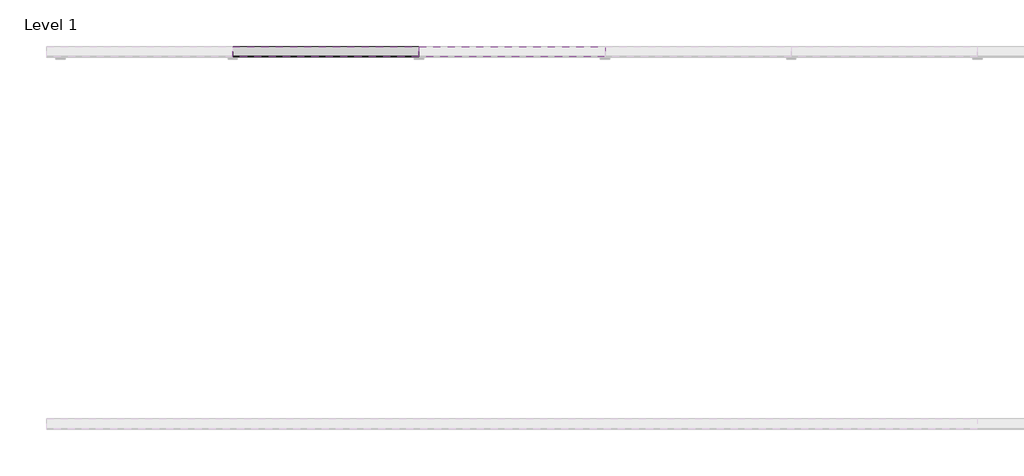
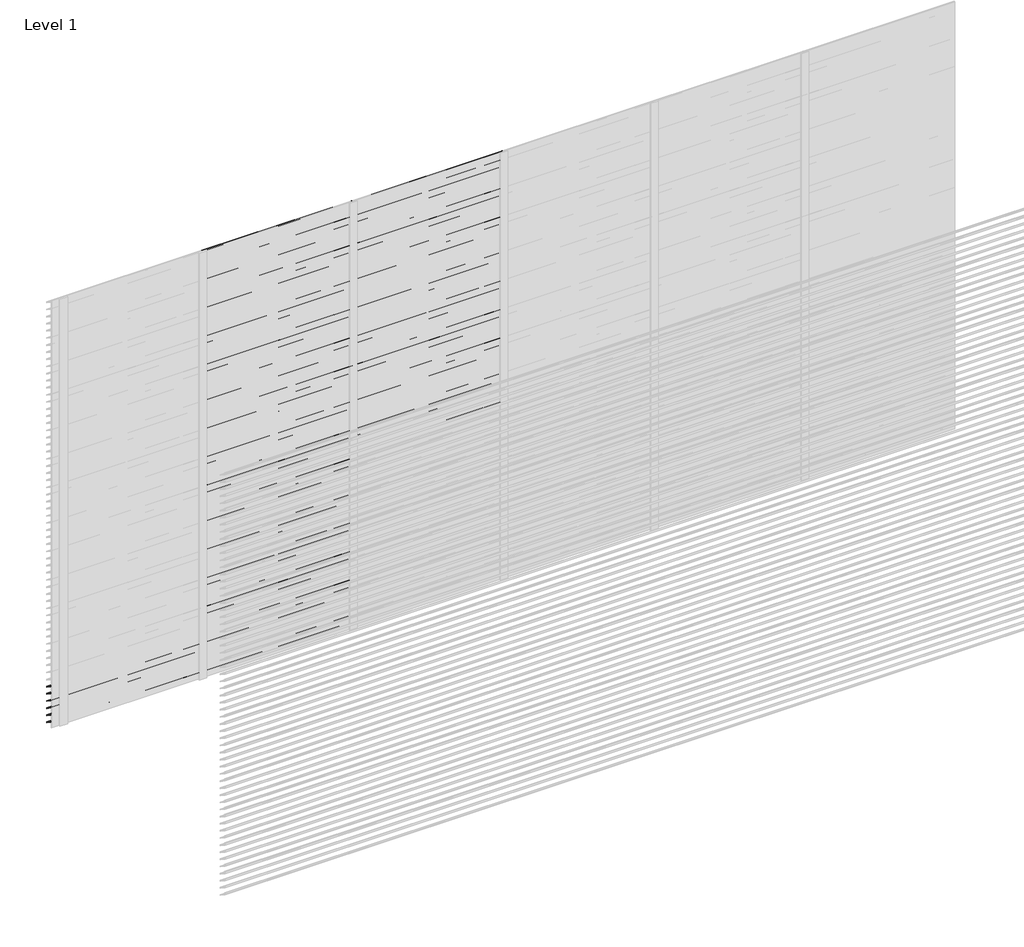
# One storey, part 16 of 18: 102 proxies.
"""IFC4 building model written with IfcOpenShell, lengths in millimetres."""

from ifc_helpers import new_model, si_unit, frame, origin, place, context, project, spatial, polyline, outline, extrude, element, save

model = new_model("IFC4")

# Units and contexts
model_context = context("Model", 3, world=origin())
ifc_project = project(units=[si_unit("LENGTHUNIT", "METRE", prefix="MILLI")], contexts=[model_context])

# Site, building, storey
site = spatial("IfcSite", under=ifc_project)
building = spatial("IfcBuilding", under=site)
storey = spatial("IfcBuildingStorey", under=building, Name="Level 1", Elevation=0.0)

# Proxies
placement = place(None, origin())
element("IfcBuildingElementProxy", 1, Name="Wall Sweeps", at=placement, inside=storey, context=model_context, shape_type="SweptSolid", body=[
    extrude(outline(polyline([(5.0, 300.0), (5.0, 291.0744429), (57.0, 256.0), (57.0, 250.0), (3.0, 286.4234599), (3.0, 300.0), (5.0, 300.0)])), frame((0.0, 0.0, 0.0), z_axis=(1.0, 0.0, 0.0), x_axis=(0.0, 1.0, 0.0)), (0.0, 0.0, 1.0), 1000.0),
])
element("IfcBuildingElementProxy", 2, Name="Wall Sweeps", at=placement, inside=storey, context=model_context, shape_type="SweptSolid", body=[
    extrude(outline(polyline([(5.0, 250.0), (5.0, 241.0744429), (57.0, 206.0), (57.0, 200.0), (3.0, 236.4234599), (3.0, 250.0), (5.0, 250.0)])), frame((0.0, 0.0, 0.0), z_axis=(1.0, 0.0, 0.0), x_axis=(0.0, 1.0, 0.0)), (0.0, 0.0, 1.0), 1000.0),
])
element("IfcBuildingElementProxy", 3, Name="Wall Sweeps", at=placement, inside=storey, context=model_context, shape_type="SweptSolid", body=[
    extrude(outline(polyline([(5.0, 200.0), (5.0, 191.0744429), (57.0, 156.0), (57.0, 150.0), (3.0, 186.4234599), (3.0, 200.0), (5.0, 200.0)])), frame((0.0, 0.0, 0.0), z_axis=(1.0, 0.0, 0.0), x_axis=(0.0, 1.0, 0.0)), (0.0, 0.0, 1.0), 1000.0),
])
element("IfcBuildingElementProxy", 4, Name="Wall Sweeps", at=placement, inside=storey, context=model_context, shape_type="SweptSolid", body=[
    extrude(outline(polyline([(5.0, 150.0), (5.0, 141.0744429), (57.0, 106.0), (57.0, 100.0), (3.0, 136.4234599), (3.0, 150.0), (5.0, 150.0)])), frame((0.0, 0.0, 0.0), z_axis=(1.0, 0.0, 0.0), x_axis=(0.0, 1.0, 0.0)), (0.0, 0.0, 1.0), 1000.0),
])
element("IfcBuildingElementProxy", 5, Name="Wall Sweeps", at=placement, inside=storey, context=model_context, shape_type="SweptSolid", body=[
    extrude(outline(polyline([(5.0, 100.0), (5.0, 91.0744429), (57.0, 56.0), (57.0, 50.0), (3.0, 86.4234599), (3.0, 100.0), (5.0, 100.0)])), frame((0.0, 0.0, 0.0), z_axis=(1.0, 0.0, 0.0), x_axis=(0.0, 1.0, 0.0)), (0.0, 0.0, 1.0), 1000.0),
])
element("IfcBuildingElementProxy", 6, Name="Wall Sweeps", at=placement, inside=storey, context=model_context, shape_type="SweptSolid", body=[
    extrude(outline(polyline([(5.0, 50.0), (5.0, 41.0744429), (57.0, 6.0), (57.0, 0.0), (3.0, 36.4234599), (3.0, 50.0), (5.0, 50.0)])), frame((0.0, 0.0, 0.0), z_axis=(1.0, 0.0, 0.0), x_axis=(0.0, 1.0, 0.0)), (0.0, 0.0, 1.0), 1000.0),
])
element("IfcBuildingElementProxy", 7, Name="Wall Sweeps", at=placement, inside=storey, context=model_context, shape_type="SweptSolid", body=[
    extrude(outline(polyline([(5.0, 3000.0), (5.0, 2991.0744429), (57.0, 2956.0), (57.0, 2950.0), (3.0, 2986.4234599), (3.0, 3000.0), (5.0, 3000.0)])), frame((1000.0, 0.0, 0.0), z_axis=(1.0, 0.0, 0.0), x_axis=(0.0, 1.0, 0.0)), (0.0, 0.0, 1.0), 1000.0),
])
element("IfcBuildingElementProxy", 8, Name="Wall Sweeps", at=placement, inside=storey, context=model_context, shape_type="SweptSolid", body=[
    extrude(outline(polyline([(5.0, 2950.0), (5.0, 2941.0744429), (57.0, 2906.0), (57.0, 2900.0), (3.0, 2936.4234599), (3.0, 2950.0), (5.0, 2950.0)])), frame((1000.0, 0.0, 0.0), z_axis=(1.0, 0.0, 0.0), x_axis=(0.0, 1.0, 0.0)), (0.0, 0.0, 1.0), 1000.0),
])
element("IfcBuildingElementProxy", 9, Name="Wall Sweeps", at=placement, inside=storey, context=model_context, shape_type="SweptSolid", body=[
    extrude(outline(polyline([(5.0, 2900.0), (5.0, 2891.0744429), (57.0, 2856.0), (57.0, 2850.0), (3.0, 2886.4234599), (3.0, 2900.0), (5.0, 2900.0)])), frame((1000.0, 0.0, 0.0), z_axis=(1.0, 0.0, 0.0), x_axis=(0.0, 1.0, 0.0)), (0.0, 0.0, 1.0), 1000.0),
])
element("IfcBuildingElementProxy", 10, Name="Wall Sweeps", at=placement, inside=storey, context=model_context, shape_type="SweptSolid", body=[
    extrude(outline(polyline([(5.0, 2850.0), (5.0, 2841.0744429), (57.0, 2806.0), (57.0, 2800.0), (3.0, 2836.4234599), (3.0, 2850.0), (5.0, 2850.0)])), frame((1000.0, 0.0, 0.0), z_axis=(1.0, 0.0, 0.0), x_axis=(0.0, 1.0, 0.0)), (0.0, 0.0, 1.0), 1000.0),
])
element("IfcBuildingElementProxy", 11, Name="Wall Sweeps", at=placement, inside=storey, context=model_context, shape_type="SweptSolid", body=[
    extrude(outline(polyline([(5.0, 2800.0), (5.0, 2791.0744429), (57.0, 2756.0), (57.0, 2750.0), (3.0, 2786.4234599), (3.0, 2800.0), (5.0, 2800.0)])), frame((1000.0, 0.0, 0.0), z_axis=(1.0, 0.0, 0.0), x_axis=(0.0, 1.0, 0.0)), (0.0, 0.0, 1.0), 1000.0),
])
element("IfcBuildingElementProxy", 12, Name="Wall Sweeps", at=placement, inside=storey, context=model_context, shape_type="SweptSolid", body=[
    extrude(outline(polyline([(5.0, 2750.0), (5.0, 2741.0744429), (57.0, 2706.0), (57.0, 2700.0), (3.0, 2736.4234599), (3.0, 2750.0), (5.0, 2750.0)])), frame((1000.0, 0.0, 0.0), z_axis=(1.0, 0.0, 0.0), x_axis=(0.0, 1.0, 0.0)), (0.0, 0.0, 1.0), 1000.0),
])
element("IfcBuildingElementProxy", 13, Name="Wall Sweeps", at=placement, inside=storey, context=model_context, shape_type="SweptSolid", body=[
    extrude(outline(polyline([(5.0, 2700.0), (5.0, 2691.0744429), (57.0, 2656.0), (57.0, 2650.0), (3.0, 2686.4234599), (3.0, 2700.0), (5.0, 2700.0)])), frame((1000.0, 0.0, 0.0), z_axis=(1.0, 0.0, 0.0), x_axis=(0.0, 1.0, 0.0)), (0.0, 0.0, 1.0), 1000.0),
])
element("IfcBuildingElementProxy", 14, Name="Wall Sweeps", at=placement, inside=storey, context=model_context, shape_type="SweptSolid", body=[
    extrude(outline(polyline([(5.0, 2650.0), (5.0, 2641.0744429), (57.0, 2606.0), (57.0, 2600.0), (3.0, 2636.4234599), (3.0, 2650.0), (5.0, 2650.0)])), frame((1000.0, 0.0, 0.0), z_axis=(1.0, 0.0, 0.0), x_axis=(0.0, 1.0, 0.0)), (0.0, 0.0, 1.0), 1000.0),
])
element("IfcBuildingElementProxy", 15, Name="Wall Sweeps", at=placement, inside=storey, context=model_context, shape_type="SweptSolid", body=[
    extrude(outline(polyline([(5.0, 2600.0), (5.0, 2591.0744429), (57.0, 2556.0), (57.0, 2550.0), (3.0, 2586.4234599), (3.0, 2600.0), (5.0, 2600.0)])), frame((1000.0, 0.0, 0.0), z_axis=(1.0, 0.0, 0.0), x_axis=(0.0, 1.0, 0.0)), (0.0, 0.0, 1.0), 1000.0),
])
element("IfcBuildingElementProxy", 16, Name="Wall Sweeps", at=placement, inside=storey, context=model_context, shape_type="SweptSolid", body=[
    extrude(outline(polyline([(5.0, 2550.0), (5.0, 2541.0744429), (57.0, 2506.0), (57.0, 2500.0), (3.0, 2536.4234599), (3.0, 2550.0), (5.0, 2550.0)])), frame((1000.0, 0.0, 0.0), z_axis=(1.0, 0.0, 0.0), x_axis=(0.0, 1.0, 0.0)), (0.0, 0.0, 1.0), 1000.0),
])
element("IfcBuildingElementProxy", 17, Name="Wall Sweeps", at=placement, inside=storey, context=model_context, shape_type="SweptSolid", body=[
    extrude(outline(polyline([(5.0, 2500.0), (5.0, 2491.0744429), (57.0, 2456.0), (57.0, 2450.0), (3.0, 2486.4234599), (3.0, 2500.0), (5.0, 2500.0)])), frame((1000.0, 0.0, 0.0), z_axis=(1.0, 0.0, 0.0), x_axis=(0.0, 1.0, 0.0)), (0.0, 0.0, 1.0), 1000.0),
])
element("IfcBuildingElementProxy", 18, Name="Wall Sweeps", at=placement, inside=storey, context=model_context, shape_type="SweptSolid", body=[
    extrude(outline(polyline([(5.0, 2450.0), (5.0, 2441.0744429), (57.0, 2406.0), (57.0, 2400.0), (3.0, 2436.4234599), (3.0, 2450.0), (5.0, 2450.0)])), frame((1000.0, 0.0, 0.0), z_axis=(1.0, 0.0, 0.0), x_axis=(0.0, 1.0, 0.0)), (0.0, 0.0, 1.0), 1000.0),
])
element("IfcBuildingElementProxy", 19, Name="Wall Sweeps", at=placement, inside=storey, context=model_context, shape_type="SweptSolid", body=[
    extrude(outline(polyline([(5.0, 2400.0), (5.0, 2391.0744429), (57.0, 2356.0), (57.0, 2350.0), (3.0, 2386.4234599), (3.0, 2400.0), (5.0, 2400.0)])), frame((1000.0, 0.0, 0.0), z_axis=(1.0, 0.0, 0.0), x_axis=(0.0, 1.0, 0.0)), (0.0, 0.0, 1.0), 1000.0),
])
element("IfcBuildingElementProxy", 20, Name="Wall Sweeps", at=placement, inside=storey, context=model_context, shape_type="SweptSolid", body=[
    extrude(outline(polyline([(5.0, 2350.0), (5.0, 2341.0744429), (57.0, 2306.0), (57.0, 2300.0), (3.0, 2336.4234599), (3.0, 2350.0), (5.0, 2350.0)])), frame((1000.0, 0.0, 0.0), z_axis=(1.0, 0.0, 0.0), x_axis=(0.0, 1.0, 0.0)), (0.0, 0.0, 1.0), 1000.0),
])
element("IfcBuildingElementProxy", 21, Name="Wall Sweeps", at=placement, inside=storey, context=model_context, shape_type="SweptSolid", body=[
    extrude(outline(polyline([(5.0, 2300.0), (5.0, 2291.0744429), (57.0, 2256.0), (57.0, 2250.0), (3.0, 2286.4234599), (3.0, 2300.0), (5.0, 2300.0)])), frame((1000.0, 0.0, 0.0), z_axis=(1.0, 0.0, 0.0), x_axis=(0.0, 1.0, 0.0)), (0.0, 0.0, 1.0), 1000.0),
])
element("IfcBuildingElementProxy", 22, Name="Wall Sweeps", at=placement, inside=storey, context=model_context, shape_type="SweptSolid", body=[
    extrude(outline(polyline([(5.0, 2250.0), (5.0, 2241.0744429), (57.0, 2206.0), (57.0, 2200.0), (3.0, 2236.4234599), (3.0, 2250.0), (5.0, 2250.0)])), frame((1000.0, 0.0, 0.0), z_axis=(1.0, 0.0, 0.0), x_axis=(0.0, 1.0, 0.0)), (0.0, 0.0, 1.0), 1000.0),
])
element("IfcBuildingElementProxy", 23, Name="Wall Sweeps", at=placement, inside=storey, context=model_context, shape_type="SweptSolid", body=[
    extrude(outline(polyline([(5.0, 2200.0), (5.0, 2191.0744429), (57.0, 2156.0), (57.0, 2150.0), (3.0, 2186.4234599), (3.0, 2200.0), (5.0, 2200.0)])), frame((1000.0, 0.0, 0.0), z_axis=(1.0, 0.0, 0.0), x_axis=(0.0, 1.0, 0.0)), (0.0, 0.0, 1.0), 1000.0),
])
element("IfcBuildingElementProxy", 24, Name="Wall Sweeps", at=placement, inside=storey, context=model_context, shape_type="SweptSolid", body=[
    extrude(outline(polyline([(5.0, 2150.0), (5.0, 2141.0744429), (57.0, 2106.0), (57.0, 2100.0), (3.0, 2136.4234599), (3.0, 2150.0), (5.0, 2150.0)])), frame((1000.0, 0.0, 0.0), z_axis=(1.0, 0.0, 0.0), x_axis=(0.0, 1.0, 0.0)), (0.0, 0.0, 1.0), 1000.0),
])
element("IfcBuildingElementProxy", 25, Name="Wall Sweeps", at=placement, inside=storey, context=model_context, shape_type="SweptSolid", body=[
    extrude(outline(polyline([(5.0, 2100.0), (5.0, 2091.0744429), (57.0, 2056.0), (57.0, 2050.0), (3.0, 2086.4234599), (3.0, 2100.0), (5.0, 2100.0)])), frame((1000.0, 0.0, 0.0), z_axis=(1.0, 0.0, 0.0), x_axis=(0.0, 1.0, 0.0)), (0.0, 0.0, 1.0), 1000.0),
])
element("IfcBuildingElementProxy", 26, Name="Wall Sweeps", at=placement, inside=storey, context=model_context, shape_type="SweptSolid", body=[
    extrude(outline(polyline([(5.0, 2050.0), (5.0, 2041.0744429), (57.0, 2006.0), (57.0, 2000.0), (3.0, 2036.4234599), (3.0, 2050.0), (5.0, 2050.0)])), frame((1000.0, 0.0, 0.0), z_axis=(1.0, 0.0, 0.0), x_axis=(0.0, 1.0, 0.0)), (0.0, 0.0, 1.0), 1000.0),
])
element("IfcBuildingElementProxy", 27, Name="Wall Sweeps", at=placement, inside=storey, context=model_context, shape_type="SweptSolid", body=[
    extrude(outline(polyline([(5.0, 2000.0), (5.0, 1991.0744429), (57.0, 1956.0), (57.0, 1950.0), (3.0, 1986.4234599), (3.0, 2000.0), (5.0, 2000.0)])), frame((1000.0, 0.0, 0.0), z_axis=(1.0, 0.0, 0.0), x_axis=(0.0, 1.0, 0.0)), (0.0, 0.0, 1.0), 1000.0),
])
element("IfcBuildingElementProxy", 28, Name="Wall Sweeps", at=placement, inside=storey, context=model_context, shape_type="SweptSolid", body=[
    extrude(outline(polyline([(5.0, 1950.0), (5.0, 1941.0744429), (57.0, 1906.0), (57.0, 1900.0), (3.0, 1936.4234599), (3.0, 1950.0), (5.0, 1950.0)])), frame((1000.0, 0.0, 0.0), z_axis=(1.0, 0.0, 0.0), x_axis=(0.0, 1.0, 0.0)), (0.0, 0.0, 1.0), 1000.0),
])
element("IfcBuildingElementProxy", 29, Name="Wall Sweeps", at=placement, inside=storey, context=model_context, shape_type="SweptSolid", body=[
    extrude(outline(polyline([(5.0, 1900.0), (5.0, 1891.0744429), (57.0, 1856.0), (57.0, 1850.0), (3.0, 1886.4234599), (3.0, 1900.0), (5.0, 1900.0)])), frame((1000.0, 0.0, 0.0), z_axis=(1.0, 0.0, 0.0), x_axis=(0.0, 1.0, 0.0)), (0.0, 0.0, 1.0), 1000.0),
])
element("IfcBuildingElementProxy", 30, Name="Wall Sweeps", at=placement, inside=storey, context=model_context, shape_type="SweptSolid", body=[
    extrude(outline(polyline([(5.0, 1850.0), (5.0, 1841.0744429), (57.0, 1806.0), (57.0, 1800.0), (3.0, 1836.4234599), (3.0, 1850.0), (5.0, 1850.0)])), frame((1000.0, 0.0, 0.0), z_axis=(1.0, 0.0, 0.0), x_axis=(0.0, 1.0, 0.0)), (0.0, 0.0, 1.0), 1000.0),
])
element("IfcBuildingElementProxy", 31, Name="Wall Sweeps", at=placement, inside=storey, context=model_context, shape_type="SweptSolid", body=[
    extrude(outline(polyline([(5.0, 1800.0), (5.0, 1791.0744429), (57.0, 1756.0), (57.0, 1750.0), (3.0, 1786.4234599), (3.0, 1800.0), (5.0, 1800.0)])), frame((1000.0, 0.0, 0.0), z_axis=(1.0, 0.0, 0.0), x_axis=(0.0, 1.0, 0.0)), (0.0, 0.0, 1.0), 1000.0),
])
element("IfcBuildingElementProxy", 32, Name="Wall Sweeps", at=placement, inside=storey, context=model_context, shape_type="SweptSolid", body=[
    extrude(outline(polyline([(5.0, 1750.0), (5.0, 1741.0744429), (57.0, 1706.0), (57.0, 1700.0), (3.0, 1736.4234599), (3.0, 1750.0), (5.0, 1750.0)])), frame((1000.0, 0.0, 0.0), z_axis=(1.0, 0.0, 0.0), x_axis=(0.0, 1.0, 0.0)), (0.0, 0.0, 1.0), 1000.0),
])
element("IfcBuildingElementProxy", 33, Name="Wall Sweeps", at=placement, inside=storey, context=model_context, shape_type="SweptSolid", body=[
    extrude(outline(polyline([(5.0, 1700.0), (5.0, 1691.0744429), (57.0, 1656.0), (57.0, 1650.0), (3.0, 1686.4234599), (3.0, 1700.0), (5.0, 1700.0)])), frame((1000.0, 0.0, 0.0), z_axis=(1.0, 0.0, 0.0), x_axis=(0.0, 1.0, 0.0)), (0.0, 0.0, 1.0), 1000.0),
])
element("IfcBuildingElementProxy", 34, Name="Wall Sweeps", at=placement, inside=storey, context=model_context, shape_type="SweptSolid", body=[
    extrude(outline(polyline([(5.0, 1650.0), (5.0, 1641.0744429), (57.0, 1606.0), (57.0, 1600.0), (3.0, 1636.4234599), (3.0, 1650.0), (5.0, 1650.0)])), frame((1000.0, 0.0, 0.0), z_axis=(1.0, 0.0, 0.0), x_axis=(0.0, 1.0, 0.0)), (0.0, 0.0, 1.0), 1000.0),
])
element("IfcBuildingElementProxy", 35, Name="Wall Sweeps", at=placement, inside=storey, context=model_context, shape_type="SweptSolid", body=[
    extrude(outline(polyline([(5.0, 1600.0), (5.0, 1591.0744429), (57.0, 1556.0), (57.0, 1550.0), (3.0, 1586.4234599), (3.0, 1600.0), (5.0, 1600.0)])), frame((1000.0, 0.0, 0.0), z_axis=(1.0, 0.0, 0.0), x_axis=(0.0, 1.0, 0.0)), (0.0, 0.0, 1.0), 1000.0),
])
element("IfcBuildingElementProxy", 36, Name="Wall Sweeps", at=placement, inside=storey, context=model_context, shape_type="SweptSolid", body=[
    extrude(outline(polyline([(5.0, 1550.0), (5.0, 1541.0744429), (57.0, 1506.0), (57.0, 1500.0), (3.0, 1536.4234599), (3.0, 1550.0), (5.0, 1550.0)])), frame((1000.0, 0.0, 0.0), z_axis=(1.0, 0.0, 0.0), x_axis=(0.0, 1.0, 0.0)), (0.0, 0.0, 1.0), 1000.0),
])
element("IfcBuildingElementProxy", 37, Name="Wall Sweeps", at=placement, inside=storey, context=model_context, shape_type="SweptSolid", body=[
    extrude(outline(polyline([(5.0, 1500.0), (5.0, 1491.0744429), (57.0, 1456.0), (57.0, 1450.0), (3.0, 1486.4234599), (3.0, 1500.0), (5.0, 1500.0)])), frame((1000.0, 0.0, 0.0), z_axis=(1.0, 0.0, 0.0), x_axis=(0.0, 1.0, 0.0)), (0.0, 0.0, 1.0), 1000.0),
])
element("IfcBuildingElementProxy", 38, Name="Wall Sweeps", at=placement, inside=storey, context=model_context, shape_type="SweptSolid", body=[
    extrude(outline(polyline([(5.0, 1450.0), (5.0, 1441.0744429), (57.0, 1406.0), (57.0, 1400.0), (3.0, 1436.4234599), (3.0, 1450.0), (5.0, 1450.0)])), frame((1000.0, 0.0, 0.0), z_axis=(1.0, 0.0, 0.0), x_axis=(0.0, 1.0, 0.0)), (0.0, 0.0, 1.0), 1000.0),
])
element("IfcBuildingElementProxy", 39, Name="Wall Sweeps", at=placement, inside=storey, context=model_context, shape_type="SweptSolid", body=[
    extrude(outline(polyline([(5.0, 1400.0), (5.0, 1391.0744429), (57.0, 1356.0), (57.0, 1350.0), (3.0, 1386.4234599), (3.0, 1400.0), (5.0, 1400.0)])), frame((1000.0, 0.0, 0.0), z_axis=(1.0, 0.0, 0.0), x_axis=(0.0, 1.0, 0.0)), (0.0, 0.0, 1.0), 1000.0),
])
element("IfcBuildingElementProxy", 40, Name="Wall Sweeps", at=placement, inside=storey, context=model_context, shape_type="SweptSolid", body=[
    extrude(outline(polyline([(5.0, 1350.0), (5.0, 1341.0744429), (57.0, 1306.0), (57.0, 1300.0), (3.0, 1336.4234599), (3.0, 1350.0), (5.0, 1350.0)])), frame((1000.0, 0.0, 0.0), z_axis=(1.0, 0.0, 0.0), x_axis=(0.0, 1.0, 0.0)), (0.0, 0.0, 1.0), 1000.0),
])
element("IfcBuildingElementProxy", 41, Name="Wall Sweeps", at=placement, inside=storey, context=model_context, shape_type="SweptSolid", body=[
    extrude(outline(polyline([(5.0, 1300.0), (5.0, 1291.0744429), (57.0, 1256.0), (57.0, 1250.0), (3.0, 1286.4234599), (3.0, 1300.0), (5.0, 1300.0)])), frame((1000.0, 0.0, 0.0), z_axis=(1.0, 0.0, 0.0), x_axis=(0.0, 1.0, 0.0)), (0.0, 0.0, 1.0), 1000.0),
])
element("IfcBuildingElementProxy", 42, Name="Wall Sweeps", at=placement, inside=storey, context=model_context, shape_type="SweptSolid", body=[
    extrude(outline(polyline([(5.0, 1250.0), (5.0, 1241.0744429), (57.0, 1206.0), (57.0, 1200.0), (3.0, 1236.4234599), (3.0, 1250.0), (5.0, 1250.0)])), frame((1000.0, 0.0, 0.0), z_axis=(1.0, 0.0, 0.0), x_axis=(0.0, 1.0, 0.0)), (0.0, 0.0, 1.0), 1000.0),
])
element("IfcBuildingElementProxy", 43, Name="Wall Sweeps", at=placement, inside=storey, context=model_context, shape_type="SweptSolid", body=[
    extrude(outline(polyline([(5.0, 1200.0), (5.0, 1191.0744429), (57.0, 1156.0), (57.0, 1150.0), (3.0, 1186.4234599), (3.0, 1200.0), (5.0, 1200.0)])), frame((1000.0, 0.0, 0.0), z_axis=(1.0, 0.0, 0.0), x_axis=(0.0, 1.0, 0.0)), (0.0, 0.0, 1.0), 1000.0),
])
element("IfcBuildingElementProxy", 44, Name="Wall Sweeps", at=placement, inside=storey, context=model_context, shape_type="SweptSolid", body=[
    extrude(outline(polyline([(5.0, 1150.0), (5.0, 1141.0744429), (57.0, 1106.0), (57.0, 1100.0), (3.0, 1136.4234599), (3.0, 1150.0), (5.0, 1150.0)])), frame((1000.0, 0.0, 0.0), z_axis=(1.0, 0.0, 0.0), x_axis=(0.0, 1.0, 0.0)), (0.0, 0.0, 1.0), 1000.0),
])
element("IfcBuildingElementProxy", 45, Name="Wall Sweeps", at=placement, inside=storey, context=model_context, shape_type="SweptSolid", body=[
    extrude(outline(polyline([(5.0, 1100.0), (5.0, 1091.0744429), (57.0, 1056.0), (57.0, 1050.0), (3.0, 1086.4234599), (3.0, 1100.0), (5.0, 1100.0)])), frame((1000.0, 0.0, 0.0), z_axis=(1.0, 0.0, 0.0), x_axis=(0.0, 1.0, 0.0)), (0.0, 0.0, 1.0), 1000.0),
])
element("IfcBuildingElementProxy", 46, Name="Wall Sweeps", at=placement, inside=storey, context=model_context, shape_type="SweptSolid", body=[
    extrude(outline(polyline([(5.0, 1050.0), (5.0, 1041.0744429), (57.0, 1006.0), (57.0, 1000.0), (3.0, 1036.4234599), (3.0, 1050.0), (5.0, 1050.0)])), frame((1000.0, 0.0, 0.0), z_axis=(1.0, 0.0, 0.0), x_axis=(0.0, 1.0, 0.0)), (0.0, 0.0, 1.0), 1000.0),
])
element("IfcBuildingElementProxy", 47, Name="Wall Sweeps", at=placement, inside=storey, context=model_context, shape_type="SweptSolid", body=[
    extrude(outline(polyline([(5.0, 1000.0), (5.0, 991.0744429), (57.0, 956.0), (57.0, 950.0), (3.0, 986.4234599), (3.0, 1000.0), (5.0, 1000.0)])), frame((1000.0, 0.0, 0.0), z_axis=(1.0, 0.0, 0.0), x_axis=(0.0, 1.0, 0.0)), (0.0, 0.0, 1.0), 1000.0),
])
element("IfcBuildingElementProxy", 48, Name="Wall Sweeps", at=placement, inside=storey, context=model_context, shape_type="SweptSolid", body=[
    extrude(outline(polyline([(5.0, 950.0), (5.0, 941.0744429), (57.0, 906.0), (57.0, 900.0), (3.0, 936.4234599), (3.0, 950.0), (5.0, 950.0)])), frame((1000.0, 0.0, 0.0), z_axis=(1.0, 0.0, 0.0), x_axis=(0.0, 1.0, 0.0)), (0.0, 0.0, 1.0), 1000.0),
])
element("IfcBuildingElementProxy", 49, Name="Wall Sweeps", at=placement, inside=storey, context=model_context, shape_type="SweptSolid", body=[
    extrude(outline(polyline([(5.0, 900.0), (5.0, 891.0744429), (57.0, 856.0), (57.0, 850.0), (3.0, 886.4234599), (3.0, 900.0), (5.0, 900.0)])), frame((1000.0, 0.0, 0.0), z_axis=(1.0, 0.0, 0.0), x_axis=(0.0, 1.0, 0.0)), (0.0, 0.0, 1.0), 1000.0),
])
element("IfcBuildingElementProxy", 50, Name="Wall Sweeps", at=placement, inside=storey, context=model_context, shape_type="SweptSolid", body=[
    extrude(outline(polyline([(5.0, 850.0), (5.0, 841.0744429), (57.0, 806.0), (57.0, 800.0), (3.0, 836.4234599), (3.0, 850.0), (5.0, 850.0)])), frame((1000.0, 0.0, 0.0), z_axis=(1.0, 0.0, 0.0), x_axis=(0.0, 1.0, 0.0)), (0.0, 0.0, 1.0), 1000.0),
])
element("IfcBuildingElementProxy", 51, Name="Wall Sweeps", at=placement, inside=storey, context=model_context, shape_type="SweptSolid", body=[
    extrude(outline(polyline([(5.0, 800.0), (5.0, 791.0744429), (57.0, 756.0), (57.0, 750.0), (3.0, 786.4234599), (3.0, 800.0), (5.0, 800.0)])), frame((1000.0, 0.0, 0.0), z_axis=(1.0, 0.0, 0.0), x_axis=(0.0, 1.0, 0.0)), (0.0, 0.0, 1.0), 1000.0),
])
element("IfcBuildingElementProxy", 52, Name="Wall Sweeps", at=placement, inside=storey, context=model_context, shape_type="SweptSolid", body=[
    extrude(outline(polyline([(5.0, 750.0), (5.0, 741.0744429), (57.0, 706.0), (57.0, 700.0), (3.0, 736.4234599), (3.0, 750.0), (5.0, 750.0)])), frame((1000.0, 0.0, 0.0), z_axis=(1.0, 0.0, 0.0), x_axis=(0.0, 1.0, 0.0)), (0.0, 0.0, 1.0), 1000.0),
])
element("IfcBuildingElementProxy", 53, Name="Wall Sweeps", at=placement, inside=storey, context=model_context, shape_type="SweptSolid", body=[
    extrude(outline(polyline([(5.0, 700.0), (5.0, 691.0744429), (57.0, 656.0), (57.0, 650.0), (3.0, 686.4234599), (3.0, 700.0), (5.0, 700.0)])), frame((1000.0, 0.0, 0.0), z_axis=(1.0, 0.0, 0.0), x_axis=(0.0, 1.0, 0.0)), (0.0, 0.0, 1.0), 1000.0),
])
element("IfcBuildingElementProxy", 54, Name="Wall Sweeps", at=placement, inside=storey, context=model_context, shape_type="SweptSolid", body=[
    extrude(outline(polyline([(5.0, 650.0), (5.0, 641.0744429), (57.0, 606.0), (57.0, 600.0), (3.0, 636.4234599), (3.0, 650.0), (5.0, 650.0)])), frame((1000.0, 0.0, 0.0), z_axis=(1.0, 0.0, 0.0), x_axis=(0.0, 1.0, 0.0)), (0.0, 0.0, 1.0), 1000.0),
])
element("IfcBuildingElementProxy", 55, Name="Wall Sweeps", at=placement, inside=storey, context=model_context, shape_type="SweptSolid", body=[
    extrude(outline(polyline([(5.0, 600.0), (5.0, 591.0744429), (57.0, 556.0), (57.0, 550.0), (3.0, 586.4234599), (3.0, 600.0), (5.0, 600.0)])), frame((1000.0, 0.0, 0.0), z_axis=(1.0, 0.0, 0.0), x_axis=(0.0, 1.0, 0.0)), (0.0, 0.0, 1.0), 1000.0),
])
element("IfcBuildingElementProxy", 56, Name="Wall Sweeps", at=placement, inside=storey, context=model_context, shape_type="SweptSolid", body=[
    extrude(outline(polyline([(5.0, 550.0), (5.0, 541.0744429), (57.0, 506.0), (57.0, 500.0), (3.0, 536.4234599), (3.0, 550.0), (5.0, 550.0)])), frame((1000.0, 0.0, 0.0), z_axis=(1.0, 0.0, 0.0), x_axis=(0.0, 1.0, 0.0)), (0.0, 0.0, 1.0), 1000.0),
])
element("IfcBuildingElementProxy", 57, Name="Wall Sweeps", at=placement, inside=storey, context=model_context, shape_type="SweptSolid", body=[
    extrude(outline(polyline([(5.0, 500.0), (5.0, 491.0744429), (57.0, 456.0), (57.0, 450.0), (3.0, 486.4234599), (3.0, 500.0), (5.0, 500.0)])), frame((1000.0, 0.0, 0.0), z_axis=(1.0, 0.0, 0.0), x_axis=(0.0, 1.0, 0.0)), (0.0, 0.0, 1.0), 1000.0),
])
element("IfcBuildingElementProxy", 58, Name="Wall Sweeps", at=placement, inside=storey, context=model_context, shape_type="SweptSolid", body=[
    extrude(outline(polyline([(5.0, 450.0), (5.0, 441.0744429), (57.0, 406.0), (57.0, 400.0), (3.0, 436.4234599), (3.0, 450.0), (5.0, 450.0)])), frame((1000.0, 0.0, 0.0), z_axis=(1.0, 0.0, 0.0), x_axis=(0.0, 1.0, 0.0)), (0.0, 0.0, 1.0), 1000.0),
])
element("IfcBuildingElementProxy", 59, Name="Wall Sweeps", at=placement, inside=storey, context=model_context, shape_type="SweptSolid", body=[
    extrude(outline(polyline([(5.0, 400.0), (5.0, 391.0744429), (57.0, 356.0), (57.0, 350.0), (3.0, 386.4234599), (3.0, 400.0), (5.0, 400.0)])), frame((1000.0, 0.0, 0.0), z_axis=(1.0, 0.0, 0.0), x_axis=(0.0, 1.0, 0.0)), (0.0, 0.0, 1.0), 1000.0),
])
element("IfcBuildingElementProxy", 60, Name="Wall Sweeps", at=placement, inside=storey, context=model_context, shape_type="SweptSolid", body=[
    extrude(outline(polyline([(5.0, 350.0), (5.0, 341.0744429), (57.0, 306.0), (57.0, 300.0), (3.0, 336.4234599), (3.0, 350.0), (5.0, 350.0)])), frame((1000.0, 0.0, 0.0), z_axis=(1.0, 0.0, 0.0), x_axis=(0.0, 1.0, 0.0)), (0.0, 0.0, 1.0), 1000.0),
])
element("IfcBuildingElementProxy", 61, Name="Wall Sweeps", at=placement, inside=storey, context=model_context, shape_type="SweptSolid", body=[
    extrude(outline(polyline([(5.0, 300.0), (5.0, 291.0744429), (57.0, 256.0), (57.0, 250.0), (3.0, 286.4234599), (3.0, 300.0), (5.0, 300.0)])), frame((1000.0, 0.0, 0.0), z_axis=(1.0, 0.0, 0.0), x_axis=(0.0, 1.0, 0.0)), (0.0, 0.0, 1.0), 1000.0),
])
element("IfcBuildingElementProxy", 62, Name="Wall Sweeps", at=placement, inside=storey, context=model_context, shape_type="SweptSolid", body=[
    extrude(outline(polyline([(5.0, 250.0), (5.0, 241.0744429), (57.0, 206.0), (57.0, 200.0), (3.0, 236.4234599), (3.0, 250.0), (5.0, 250.0)])), frame((1000.0, 0.0, 0.0), z_axis=(1.0, 0.0, 0.0), x_axis=(0.0, 1.0, 0.0)), (0.0, 0.0, 1.0), 1000.0),
])
element("IfcBuildingElementProxy", 63, Name="Wall Sweeps", at=placement, inside=storey, context=model_context, shape_type="SweptSolid", body=[
    extrude(outline(polyline([(5.0, 200.0), (5.0, 191.0744429), (57.0, 156.0), (57.0, 150.0), (3.0, 186.4234599), (3.0, 200.0), (5.0, 200.0)])), frame((1000.0, 0.0, 0.0), z_axis=(1.0, 0.0, 0.0), x_axis=(0.0, 1.0, 0.0)), (0.0, 0.0, 1.0), 1000.0),
])
element("IfcBuildingElementProxy", 64, Name="Wall Sweeps", at=placement, inside=storey, context=model_context, shape_type="SweptSolid", body=[
    extrude(outline(polyline([(5.0, 150.0), (5.0, 141.0744429), (57.0, 106.0), (57.0, 100.0), (3.0, 136.4234599), (3.0, 150.0), (5.0, 150.0)])), frame((1000.0, 0.0, 0.0), z_axis=(1.0, 0.0, 0.0), x_axis=(0.0, 1.0, 0.0)), (0.0, 0.0, 1.0), 1000.0),
])
element("IfcBuildingElementProxy", 65, Name="Wall Sweeps", at=placement, inside=storey, context=model_context, shape_type="SweptSolid", body=[
    extrude(outline(polyline([(5.0, 100.0), (5.0, 91.0744429), (57.0, 56.0), (57.0, 50.0), (3.0, 86.4234599), (3.0, 100.0), (5.0, 100.0)])), frame((1000.0, 0.0, 0.0), z_axis=(1.0, 0.0, 0.0), x_axis=(0.0, 1.0, 0.0)), (0.0, 0.0, 1.0), 1000.0),
])
element("IfcBuildingElementProxy", 66, Name="Wall Sweeps", at=placement, inside=storey, context=model_context, shape_type="SweptSolid", body=[
    extrude(outline(polyline([(5.0, 50.0), (5.0, 41.0744429), (57.0, 6.0), (57.0, 0.0), (3.0, 36.4234599), (3.0, 50.0), (5.0, 50.0)])), frame((1000.0, 0.0, 0.0), z_axis=(1.0, 0.0, 0.0), x_axis=(0.0, 1.0, 0.0)), (0.0, 0.0, 1.0), 1000.0),
])
element("IfcBuildingElementProxy", 67, Name="Wall Sweeps", at=placement, inside=storey, context=model_context, shape_type="SweptSolid", body=[
    extrude(outline(polyline([(5.0, 3000.0), (5.0, 2991.0744429), (57.0, 2956.0), (57.0, 2950.0), (3.0, 2986.4234599), (3.0, 3000.0), (5.0, 3000.0)])), frame((2000.0, 0.0, 0.0), z_axis=(1.0, 0.0, 0.0), x_axis=(0.0, 1.0, 0.0)), (0.0, 0.0, 1.0), 1000.0),
])
element("IfcBuildingElementProxy", 68, Name="Wall Sweeps", at=placement, inside=storey, context=model_context, shape_type="SweptSolid", body=[
    extrude(outline(polyline([(5.0, 2950.0), (5.0, 2941.0744429), (57.0, 2906.0), (57.0, 2900.0), (3.0, 2936.4234599), (3.0, 2950.0), (5.0, 2950.0)])), frame((2000.0, 0.0, 0.0), z_axis=(1.0, 0.0, 0.0), x_axis=(0.0, 1.0, 0.0)), (0.0, 0.0, 1.0), 1000.0),
])
element("IfcBuildingElementProxy", 69, Name="Wall Sweeps", at=placement, inside=storey, context=model_context, shape_type="SweptSolid", body=[
    extrude(outline(polyline([(5.0, 2900.0), (5.0, 2891.0744429), (57.0, 2856.0), (57.0, 2850.0), (3.0, 2886.4234599), (3.0, 2900.0), (5.0, 2900.0)])), frame((2000.0, 0.0, 0.0), z_axis=(1.0, 0.0, 0.0), x_axis=(0.0, 1.0, 0.0)), (0.0, 0.0, 1.0), 1000.0),
])
element("IfcBuildingElementProxy", 70, Name="Wall Sweeps", at=placement, inside=storey, context=model_context, shape_type="SweptSolid", body=[
    extrude(outline(polyline([(5.0, 2850.0), (5.0, 2841.0744429), (57.0, 2806.0), (57.0, 2800.0), (3.0, 2836.4234599), (3.0, 2850.0), (5.0, 2850.0)])), frame((2000.0, 0.0, 0.0), z_axis=(1.0, 0.0, 0.0), x_axis=(0.0, 1.0, 0.0)), (0.0, 0.0, 1.0), 1000.0),
])
element("IfcBuildingElementProxy", 71, Name="Wall Sweeps", at=placement, inside=storey, context=model_context, shape_type="SweptSolid", body=[
    extrude(outline(polyline([(5.0, 2800.0), (5.0, 2791.0744429), (57.0, 2756.0), (57.0, 2750.0), (3.0, 2786.4234599), (3.0, 2800.0), (5.0, 2800.0)])), frame((2000.0, 0.0, 0.0), z_axis=(1.0, 0.0, 0.0), x_axis=(0.0, 1.0, 0.0)), (0.0, 0.0, 1.0), 1000.0),
])
element("IfcBuildingElementProxy", 72, Name="Wall Sweeps", at=placement, inside=storey, context=model_context, shape_type="SweptSolid", body=[
    extrude(outline(polyline([(5.0, 2750.0), (5.0, 2741.0744429), (57.0, 2706.0), (57.0, 2700.0), (3.0, 2736.4234599), (3.0, 2750.0), (5.0, 2750.0)])), frame((2000.0, 0.0, 0.0), z_axis=(1.0, 0.0, 0.0), x_axis=(0.0, 1.0, 0.0)), (0.0, 0.0, 1.0), 1000.0),
])
element("IfcBuildingElementProxy", 73, Name="Wall Sweeps", at=placement, inside=storey, context=model_context, shape_type="SweptSolid", body=[
    extrude(outline(polyline([(5.0, 2700.0), (5.0, 2691.0744429), (57.0, 2656.0), (57.0, 2650.0), (3.0, 2686.4234599), (3.0, 2700.0), (5.0, 2700.0)])), frame((2000.0, 0.0, 0.0), z_axis=(1.0, 0.0, 0.0), x_axis=(0.0, 1.0, 0.0)), (0.0, 0.0, 1.0), 1000.0),
])
element("IfcBuildingElementProxy", 74, Name="Wall Sweeps", at=placement, inside=storey, context=model_context, shape_type="SweptSolid", body=[
    extrude(outline(polyline([(5.0, 2650.0), (5.0, 2641.0744429), (57.0, 2606.0), (57.0, 2600.0), (3.0, 2636.4234599), (3.0, 2650.0), (5.0, 2650.0)])), frame((2000.0, 0.0, 0.0), z_axis=(1.0, 0.0, 0.0), x_axis=(0.0, 1.0, 0.0)), (0.0, 0.0, 1.0), 1000.0),
])
element("IfcBuildingElementProxy", 75, Name="Wall Sweeps", at=placement, inside=storey, context=model_context, shape_type="SweptSolid", body=[
    extrude(outline(polyline([(5.0, 2600.0), (5.0, 2591.0744429), (57.0, 2556.0), (57.0, 2550.0), (3.0, 2586.4234599), (3.0, 2600.0), (5.0, 2600.0)])), frame((2000.0, 0.0, 0.0), z_axis=(1.0, 0.0, 0.0), x_axis=(0.0, 1.0, 0.0)), (0.0, 0.0, 1.0), 1000.0),
])
element("IfcBuildingElementProxy", 76, Name="Wall Sweeps", at=placement, inside=storey, context=model_context, shape_type="SweptSolid", body=[
    extrude(outline(polyline([(5.0, 2550.0), (5.0, 2541.0744429), (57.0, 2506.0), (57.0, 2500.0), (3.0, 2536.4234599), (3.0, 2550.0), (5.0, 2550.0)])), frame((2000.0, 0.0, 0.0), z_axis=(1.0, 0.0, 0.0), x_axis=(0.0, 1.0, 0.0)), (0.0, 0.0, 1.0), 1000.0),
])
element("IfcBuildingElementProxy", 77, Name="Wall Sweeps", at=placement, inside=storey, context=model_context, shape_type="SweptSolid", body=[
    extrude(outline(polyline([(5.0, 2500.0), (5.0, 2491.0744429), (57.0, 2456.0), (57.0, 2450.0), (3.0, 2486.4234599), (3.0, 2500.0), (5.0, 2500.0)])), frame((2000.0, 0.0, 0.0), z_axis=(1.0, 0.0, 0.0), x_axis=(0.0, 1.0, 0.0)), (0.0, 0.0, 1.0), 1000.0),
])
element("IfcBuildingElementProxy", 78, Name="Wall Sweeps", at=placement, inside=storey, context=model_context, shape_type="SweptSolid", body=[
    extrude(outline(polyline([(5.0, 2450.0), (5.0, 2441.0744429), (57.0, 2406.0), (57.0, 2400.0), (3.0, 2436.4234599), (3.0, 2450.0), (5.0, 2450.0)])), frame((2000.0, 0.0, 0.0), z_axis=(1.0, 0.0, 0.0), x_axis=(0.0, 1.0, 0.0)), (0.0, 0.0, 1.0), 1000.0),
])
element("IfcBuildingElementProxy", 79, Name="Wall Sweeps", at=placement, inside=storey, context=model_context, shape_type="SweptSolid", body=[
    extrude(outline(polyline([(5.0, 2400.0), (5.0, 2391.0744429), (57.0, 2356.0), (57.0, 2350.0), (3.0, 2386.4234599), (3.0, 2400.0), (5.0, 2400.0)])), frame((2000.0, 0.0, 0.0), z_axis=(1.0, 0.0, 0.0), x_axis=(0.0, 1.0, 0.0)), (0.0, 0.0, 1.0), 1000.0),
])
element("IfcBuildingElementProxy", 80, Name="Wall Sweeps", at=placement, inside=storey, context=model_context, shape_type="SweptSolid", body=[
    extrude(outline(polyline([(5.0, 2350.0), (5.0, 2341.0744429), (57.0, 2306.0), (57.0, 2300.0), (3.0, 2336.4234599), (3.0, 2350.0), (5.0, 2350.0)])), frame((2000.0, 0.0, 0.0), z_axis=(1.0, 0.0, 0.0), x_axis=(0.0, 1.0, 0.0)), (0.0, 0.0, 1.0), 1000.0),
])
element("IfcBuildingElementProxy", 81, Name="Wall Sweeps", at=placement, inside=storey, context=model_context, shape_type="SweptSolid", body=[
    extrude(outline(polyline([(5.0, 2300.0), (5.0, 2291.0744429), (57.0, 2256.0), (57.0, 2250.0), (3.0, 2286.4234599), (3.0, 2300.0), (5.0, 2300.0)])), frame((2000.0, 0.0, 0.0), z_axis=(1.0, 0.0, 0.0), x_axis=(0.0, 1.0, 0.0)), (0.0, 0.0, 1.0), 1000.0),
])
element("IfcBuildingElementProxy", 82, Name="Wall Sweeps", at=placement, inside=storey, context=model_context, shape_type="SweptSolid", body=[
    extrude(outline(polyline([(5.0, 2250.0), (5.0, 2241.0744429), (57.0, 2206.0), (57.0, 2200.0), (3.0, 2236.4234599), (3.0, 2250.0), (5.0, 2250.0)])), frame((2000.0, 0.0, 0.0), z_axis=(1.0, 0.0, 0.0), x_axis=(0.0, 1.0, 0.0)), (0.0, 0.0, 1.0), 1000.0),
])
element("IfcBuildingElementProxy", 83, Name="Wall Sweeps", at=placement, inside=storey, context=model_context, shape_type="SweptSolid", body=[
    extrude(outline(polyline([(5.0, 2200.0), (5.0, 2191.0744429), (57.0, 2156.0), (57.0, 2150.0), (3.0, 2186.4234599), (3.0, 2200.0), (5.0, 2200.0)])), frame((2000.0, 0.0, 0.0), z_axis=(1.0, 0.0, 0.0), x_axis=(0.0, 1.0, 0.0)), (0.0, 0.0, 1.0), 1000.0),
])
element("IfcBuildingElementProxy", 84, Name="Wall Sweeps", at=placement, inside=storey, context=model_context, shape_type="SweptSolid", body=[
    extrude(outline(polyline([(5.0, 2150.0), (5.0, 2141.0744429), (57.0, 2106.0), (57.0, 2100.0), (3.0, 2136.4234599), (3.0, 2150.0), (5.0, 2150.0)])), frame((2000.0, 0.0, 0.0), z_axis=(1.0, 0.0, 0.0), x_axis=(0.0, 1.0, 0.0)), (0.0, 0.0, 1.0), 1000.0),
])
element("IfcBuildingElementProxy", 85, Name="Wall Sweeps", at=placement, inside=storey, context=model_context, shape_type="SweptSolid", body=[
    extrude(outline(polyline([(5.0, 2100.0), (5.0, 2091.0744429), (57.0, 2056.0), (57.0, 2050.0), (3.0, 2086.4234599), (3.0, 2100.0), (5.0, 2100.0)])), frame((2000.0, 0.0, 0.0), z_axis=(1.0, 0.0, 0.0), x_axis=(0.0, 1.0, 0.0)), (0.0, 0.0, 1.0), 1000.0),
])
element("IfcBuildingElementProxy", 86, Name="Wall Sweeps", at=placement, inside=storey, context=model_context, shape_type="SweptSolid", body=[
    extrude(outline(polyline([(5.0, 2050.0), (5.0, 2041.0744429), (57.0, 2006.0), (57.0, 2000.0), (3.0, 2036.4234599), (3.0, 2050.0), (5.0, 2050.0)])), frame((2000.0, 0.0, 0.0), z_axis=(1.0, 0.0, 0.0), x_axis=(0.0, 1.0, 0.0)), (0.0, 0.0, 1.0), 1000.0),
])
element("IfcBuildingElementProxy", 87, Name="Wall Sweeps", at=placement, inside=storey, context=model_context, shape_type="SweptSolid", body=[
    extrude(outline(polyline([(5.0, 2000.0), (5.0, 1991.0744429), (57.0, 1956.0), (57.0, 1950.0), (3.0, 1986.4234599), (3.0, 2000.0), (5.0, 2000.0)])), frame((2000.0, 0.0, 0.0), z_axis=(1.0, 0.0, 0.0), x_axis=(0.0, 1.0, 0.0)), (0.0, 0.0, 1.0), 1000.0),
])
element("IfcBuildingElementProxy", 88, Name="Wall Sweeps", at=placement, inside=storey, context=model_context, shape_type="SweptSolid", body=[
    extrude(outline(polyline([(5.0, 1950.0), (5.0, 1941.0744429), (57.0, 1906.0), (57.0, 1900.0), (3.0, 1936.4234599), (3.0, 1950.0), (5.0, 1950.0)])), frame((2000.0, 0.0, 0.0), z_axis=(1.0, 0.0, 0.0), x_axis=(0.0, 1.0, 0.0)), (0.0, 0.0, 1.0), 1000.0),
])
element("IfcBuildingElementProxy", 89, Name="Wall Sweeps", at=placement, inside=storey, context=model_context, shape_type="SweptSolid", body=[
    extrude(outline(polyline([(5.0, 1900.0), (5.0, 1891.0744429), (57.0, 1856.0), (57.0, 1850.0), (3.0, 1886.4234599), (3.0, 1900.0), (5.0, 1900.0)])), frame((2000.0, 0.0, 0.0), z_axis=(1.0, 0.0, 0.0), x_axis=(0.0, 1.0, 0.0)), (0.0, 0.0, 1.0), 1000.0),
])
element("IfcBuildingElementProxy", 90, Name="Wall Sweeps", at=placement, inside=storey, context=model_context, shape_type="SweptSolid", body=[
    extrude(outline(polyline([(5.0, 1850.0), (5.0, 1841.0744429), (57.0, 1806.0), (57.0, 1800.0), (3.0, 1836.4234599), (3.0, 1850.0), (5.0, 1850.0)])), frame((2000.0, 0.0, 0.0), z_axis=(1.0, 0.0, 0.0), x_axis=(0.0, 1.0, 0.0)), (0.0, 0.0, 1.0), 1000.0),
])
element("IfcBuildingElementProxy", 91, Name="Wall Sweeps", at=placement, inside=storey, context=model_context, shape_type="SweptSolid", body=[
    extrude(outline(polyline([(5.0, 1800.0), (5.0, 1791.0744429), (57.0, 1756.0), (57.0, 1750.0), (3.0, 1786.4234599), (3.0, 1800.0), (5.0, 1800.0)])), frame((2000.0, 0.0, 0.0), z_axis=(1.0, 0.0, 0.0), x_axis=(0.0, 1.0, 0.0)), (0.0, 0.0, 1.0), 1000.0),
])
element("IfcBuildingElementProxy", 92, Name="Wall Sweeps", at=placement, inside=storey, context=model_context, shape_type="SweptSolid", body=[
    extrude(outline(polyline([(5.0, 1750.0), (5.0, 1741.0744429), (57.0, 1706.0), (57.0, 1700.0), (3.0, 1736.4234599), (3.0, 1750.0), (5.0, 1750.0)])), frame((2000.0, 0.0, 0.0), z_axis=(1.0, 0.0, 0.0), x_axis=(0.0, 1.0, 0.0)), (0.0, 0.0, 1.0), 1000.0),
])
element("IfcBuildingElementProxy", 93, Name="Wall Sweeps", at=placement, inside=storey, context=model_context, shape_type="SweptSolid", body=[
    extrude(outline(polyline([(5.0, 1700.0), (5.0, 1691.0744429), (57.0, 1656.0), (57.0, 1650.0), (3.0, 1686.4234599), (3.0, 1700.0), (5.0, 1700.0)])), frame((2000.0, 0.0, 0.0), z_axis=(1.0, 0.0, 0.0), x_axis=(0.0, 1.0, 0.0)), (0.0, 0.0, 1.0), 1000.0),
])
element("IfcBuildingElementProxy", 94, Name="Wall Sweeps", at=placement, inside=storey, context=model_context, shape_type="SweptSolid", body=[
    extrude(outline(polyline([(5.0, 1650.0), (5.0, 1641.0744429), (57.0, 1606.0), (57.0, 1600.0), (3.0, 1636.4234599), (3.0, 1650.0), (5.0, 1650.0)])), frame((2000.0, 0.0, 0.0), z_axis=(1.0, 0.0, 0.0), x_axis=(0.0, 1.0, 0.0)), (0.0, 0.0, 1.0), 1000.0),
])
element("IfcBuildingElementProxy", 95, Name="Wall Sweeps", at=placement, inside=storey, context=model_context, shape_type="SweptSolid", body=[
    extrude(outline(polyline([(5.0, 1600.0), (5.0, 1591.0744429), (57.0, 1556.0), (57.0, 1550.0), (3.0, 1586.4234599), (3.0, 1600.0), (5.0, 1600.0)])), frame((2000.0, 0.0, 0.0), z_axis=(1.0, 0.0, 0.0), x_axis=(0.0, 1.0, 0.0)), (0.0, 0.0, 1.0), 1000.0),
])
element("IfcBuildingElementProxy", 96, Name="Wall Sweeps", at=placement, inside=storey, context=model_context, shape_type="SweptSolid", body=[
    extrude(outline(polyline([(5.0, 1550.0), (5.0, 1541.0744429), (57.0, 1506.0), (57.0, 1500.0), (3.0, 1536.4234599), (3.0, 1550.0), (5.0, 1550.0)])), frame((2000.0, 0.0, 0.0), z_axis=(1.0, 0.0, 0.0), x_axis=(0.0, 1.0, 0.0)), (0.0, 0.0, 1.0), 1000.0),
])
element("IfcBuildingElementProxy", 97, Name="Wall Sweeps", at=placement, inside=storey, context=model_context, shape_type="SweptSolid", body=[
    extrude(outline(polyline([(5.0, 1500.0), (5.0, 1491.0744429), (57.0, 1456.0), (57.0, 1450.0), (3.0, 1486.4234599), (3.0, 1500.0), (5.0, 1500.0)])), frame((2000.0, 0.0, 0.0), z_axis=(1.0, 0.0, 0.0), x_axis=(0.0, 1.0, 0.0)), (0.0, 0.0, 1.0), 1000.0),
])
element("IfcBuildingElementProxy", 98, Name="Wall Sweeps", at=placement, inside=storey, context=model_context, shape_type="SweptSolid", body=[
    extrude(outline(polyline([(5.0, 1450.0), (5.0, 1441.0744429), (57.0, 1406.0), (57.0, 1400.0), (3.0, 1436.4234599), (3.0, 1450.0), (5.0, 1450.0)])), frame((2000.0, 0.0, 0.0), z_axis=(1.0, 0.0, 0.0), x_axis=(0.0, 1.0, 0.0)), (0.0, 0.0, 1.0), 1000.0),
])
element("IfcBuildingElementProxy", 99, Name="Wall Sweeps", at=placement, inside=storey, context=model_context, shape_type="SweptSolid", body=[
    extrude(outline(polyline([(5.0, 1400.0), (5.0, 1391.0744429), (57.0, 1356.0), (57.0, 1350.0), (3.0, 1386.4234599), (3.0, 1400.0), (5.0, 1400.0)])), frame((2000.0, 0.0, 0.0), z_axis=(1.0, 0.0, 0.0), x_axis=(0.0, 1.0, 0.0)), (0.0, 0.0, 1.0), 1000.0),
])
element("IfcBuildingElementProxy", 100, Name="Wall Sweeps", at=placement, inside=storey, context=model_context, shape_type="SweptSolid", body=[
    extrude(outline(polyline([(5.0, 1350.0), (5.0, 1341.0744429), (57.0, 1306.0), (57.0, 1300.0), (3.0, 1336.4234599), (3.0, 1350.0), (5.0, 1350.0)])), frame((2000.0, 0.0, 0.0), z_axis=(1.0, 0.0, 0.0), x_axis=(0.0, 1.0, 0.0)), (0.0, 0.0, 1.0), 1000.0),
])
element("IfcBuildingElementProxy", 101, Name="Wall Sweeps", at=placement, inside=storey, context=model_context, shape_type="SweptSolid", body=[
    extrude(outline(polyline([(5.0, 1300.0), (5.0, 1291.0744429), (57.0, 1256.0), (57.0, 1250.0), (3.0, 1286.4234599), (3.0, 1300.0), (5.0, 1300.0)])), frame((2000.0, 0.0, 0.0), z_axis=(1.0, 0.0, 0.0), x_axis=(0.0, 1.0, 0.0)), (0.0, 0.0, 1.0), 1000.0),
])
element("IfcBuildingElementProxy", 102, Name="Wall Sweeps", at=placement, inside=storey, context=model_context, shape_type="SweptSolid", body=[
    extrude(outline(polyline([(5.0, 1250.0), (5.0, 1241.0744429), (57.0, 1206.0), (57.0, 1200.0), (3.0, 1236.4234599), (3.0, 1250.0), (5.0, 1250.0)])), frame((2000.0, 0.0, 0.0), z_axis=(1.0, 0.0, 0.0), x_axis=(0.0, 1.0, 0.0)), (0.0, 0.0, 1.0), 1000.0),
])

save(model, "model.ifc")
